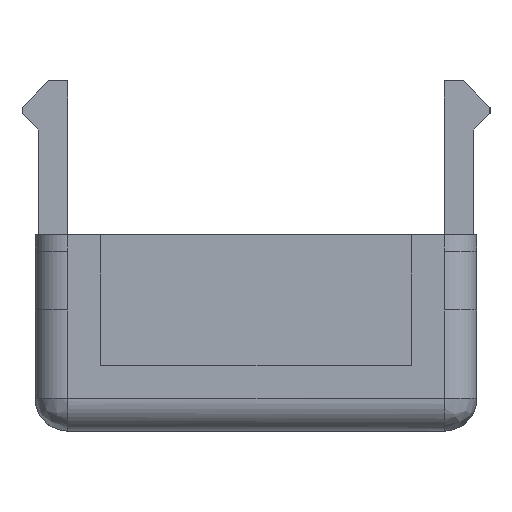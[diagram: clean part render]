
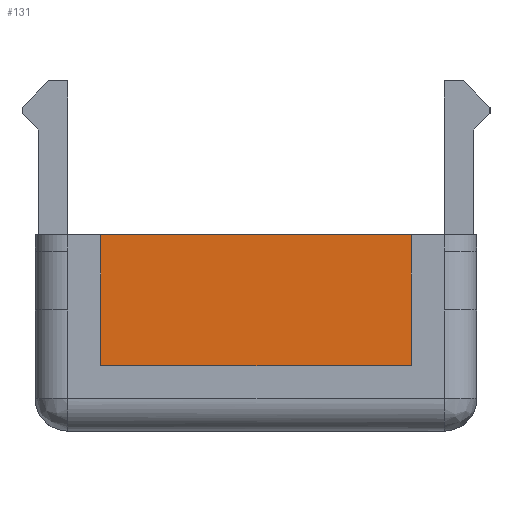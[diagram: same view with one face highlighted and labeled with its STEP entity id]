
A CAD part, left-side view. The second image highlights one B-rep face of the part: STEP entity #131.
In plain terms, the highlighted planar face has unit normal (-1, 0, 0).
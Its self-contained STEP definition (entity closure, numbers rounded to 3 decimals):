
#131=ADVANCED_FACE('',(#257),#1841,.T.);
#257=FACE_OUTER_BOUND('',#383,.T.);
#383=EDGE_LOOP('',(#890,#891,#892,#893));
#890=ORIENTED_EDGE('',*,*,#1302,.F.);
#891=ORIENTED_EDGE('',*,*,#1090,.T.);
#892=ORIENTED_EDGE('',*,*,#1303,.T.);
#893=ORIENTED_EDGE('',*,*,#1015,.F.);
#1015=EDGE_CURVE('',#1639,#1640,#1313,.T.);
#1090=EDGE_CURVE('',#1688,#1689,#1376,.T.);
#1302=EDGE_CURVE('',#1688,#1639,#1530,.T.);
#1303=EDGE_CURVE('',#1689,#1640,#1531,.T.);
#1313=B_SPLINE_CURVE_WITH_KNOTS('',1,(#2720,#2721),.UNSPECIFIED.,.F.,.F.,
(2,2),(68.571,78.071),.UNSPECIFIED.);
#1376=B_SPLINE_CURVE_WITH_KNOTS('',1,(#2894,#2895),.UNSPECIFIED.,.F.,.F.,
(2,2),(2.,11.5),.UNSPECIFIED.);
#1530=B_SPLINE_CURVE_WITH_KNOTS('',1,(#3396,#3397,#3398,#3399,#3400,#3401),
 .UNSPECIFIED.,.F.,.F.,(2,1,1,1,1,2),(0.,1.7,2.,2.2,3.5,4.),
 .UNSPECIFIED.);
#1531=B_SPLINE_CURVE_WITH_KNOTS('',1,(#3402,#3403,#3404,#3405,#3406,#3407),
 .UNSPECIFIED.,.F.,.F.,(2,1,1,1,1,2),(0.,1.7,2.,2.2,3.5,4.),
 .UNSPECIFIED.);
#1639=VERTEX_POINT('',#2529);
#1640=VERTEX_POINT('',#2530);
#1688=VERTEX_POINT('',#2578);
#1689=VERTEX_POINT('',#2579);
#1841=PLANE('',#1986);
#1986=AXIS2_PLACEMENT_3D('',#2266,#2066,$);
#2066=DIRECTION('',(-1.,0.,0.));
#2266=CARTESIAN_POINT('',(-23.,6.5,1.7));
#2529=CARTESIAN_POINT('',(-23.,4.5,6.));
#2530=CARTESIAN_POINT('',(-23.,-5.,6.));
#2578=CARTESIAN_POINT('',(-23.,4.5,2.));
#2579=CARTESIAN_POINT('',(-23.,-5.,2.));
#2720=CARTESIAN_POINT('',(-23.,4.5,6.));
#2721=CARTESIAN_POINT('',(-23.,-5.,6.));
#2894=CARTESIAN_POINT('',(-23.,4.5,2.));
#2895=CARTESIAN_POINT('',(-23.,-5.,2.));
#3396=CARTESIAN_POINT('',(-23.,4.5,2.));
#3397=CARTESIAN_POINT('',(-23.,4.5,3.7));
#3398=CARTESIAN_POINT('',(-23.,4.5,4.));
#3399=CARTESIAN_POINT('',(-23.,4.5,4.2));
#3400=CARTESIAN_POINT('',(-23.,4.5,5.5));
#3401=CARTESIAN_POINT('',(-23.,4.5,6.));
#3402=CARTESIAN_POINT('',(-23.,-5.,2.));
#3403=CARTESIAN_POINT('',(-23.,-5.,3.7));
#3404=CARTESIAN_POINT('',(-23.,-5.,4.));
#3405=CARTESIAN_POINT('',(-23.,-5.,4.2));
#3406=CARTESIAN_POINT('',(-23.,-5.,5.5));
#3407=CARTESIAN_POINT('',(-23.,-5.,6.));
